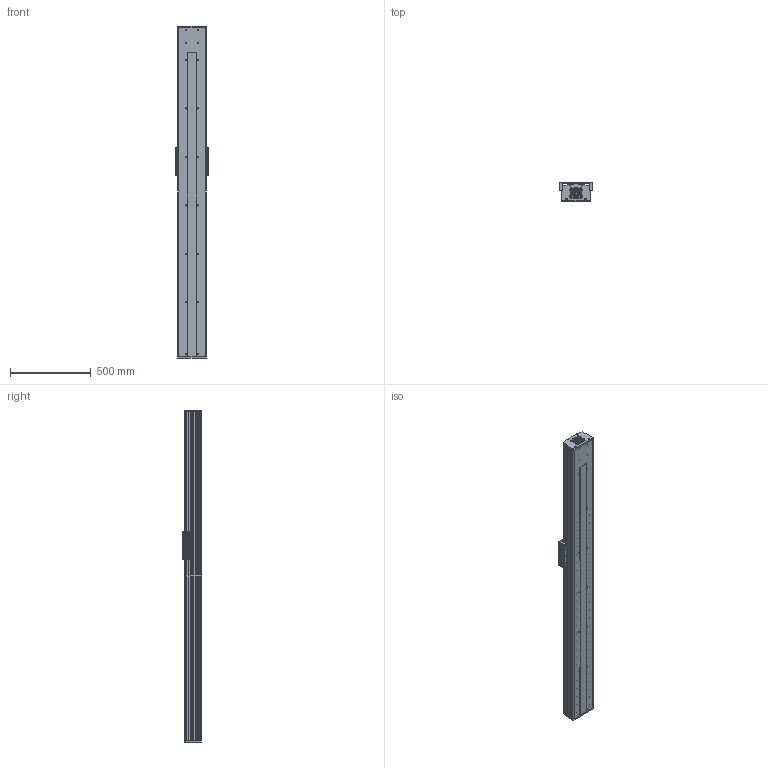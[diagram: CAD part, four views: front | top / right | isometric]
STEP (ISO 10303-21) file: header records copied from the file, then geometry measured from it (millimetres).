
FILE_DESCRIPTION (( 'STEP AP203' ), '1' );
FILE_NAME ('CF175-2-P1700.STEP', '2016-02-23T07:46:25', ( 'Sky123.Org' ), ( 'Sky123.Org' ), 'SwSTEP 2.0', 'SolidWorks 2015', '' );
FILE_SCHEMA (( 'CONFIG_CONTROL_DESIGN' ));
Length unit declared in the file: millimetre
Products named in the file (13): 175-2侜督80萇儂釱; 175-2耜啣; CF175-2-P1700; 175-2盓傅釱; CF175-2蹟譫釱; Y1-CF175-2-P1200-1547裔啣; Y1-CF175-2-P1200-1547臏倰第; Y1-HGR20-1500絳寢; CF-HGH20CA賑輸; CF175-2賑雄啣; SFU2505-4; 175-2梓袧嘐隅釱; X1-SFS2525-1185
Assembly tree (16 placements, depth 2):
  CF175-2-P1700
    CF-HGH20CA賑輸  x4
    SFU2505-4
    X1-SFS2525-1185
    175-2耜啣
    175-2盓傅釱
    CF175-2蹟譫釱
    Y1-CF175-2-P1200-1547裔啣
    Y1-CF175-2-P1200-1547臏倰第
    Y1-HGR20-1500絳寢  x2
    CF175-2賑雄啣
    175-2梓袧嘐隅釱
    175-2侜督80萇儂釱
Bounding box: 200 x 116.8 x 2055 mm (x, y, z)
Volume: 14233798.8 mm3; surface area: 3794105.4 mm2
Topology: 20 solids, 20 shells, 1579 faces, 4149 edges, 2748 vertices
Faces by surface type: cylinder 857, plane 698, cone 20, bspline 4
Entity records: 46354 total; most frequent: CARTESIAN_POINT 11912, DIRECTION 7204, ORIENTED_EDGE 6636, EDGE_CURVE 3318, AXIS2_PLACEMENT_3D 2729, VERTEX_POINT 2196, LINE 1746, VECTOR 1746
